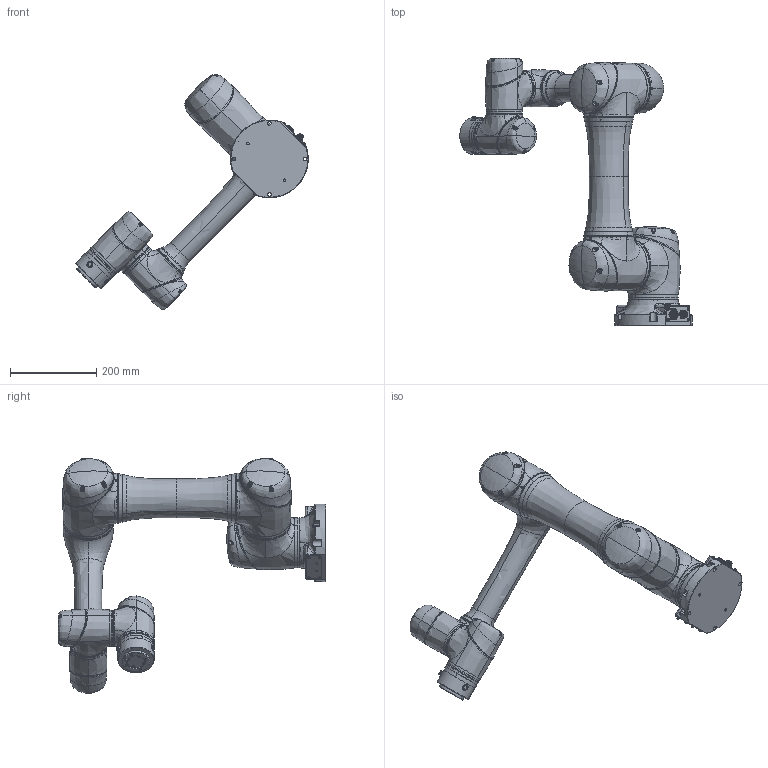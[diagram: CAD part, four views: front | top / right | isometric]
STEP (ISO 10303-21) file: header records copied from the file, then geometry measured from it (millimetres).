
FILE_DESCRIPTION (( 'STEP AP214' ), '1' );
FILE_NAME ('CRP-RC09-05 协作机器人本体 姿态3 2024.03.20.STEP', '2024-03-20T02:48:42', ( '' ), ( '' ), 'SwSTEP 2.0', 'SolidWorks 2021', '' );
FILE_SCHEMA (( 'AUTOMOTIVE_DESIGN' ));
Length unit declared in the file: millimetre
Products named in the file (29): CRP-RC09-05 藺傷楊擘; CRM25R褲极 2021.08.25; CRM14R 耀郪 2021.08.25; FLHM12F08T1.0NIYDBKXZ00 2020.02.062.0; 菁釱郪璃 2021.8.25; CRM25R滅鳥遠 2021.08.25; WY20 綴蹟譫脣釱蹟譫 2020.04.20; CRM25R砎蝶遠 2021.08.25; 迣疏; 菁釱; WY 綴蹟譫脣釱 2020.04.20; CRM14R 綴褲 2021.08.25; CRM14R砎蝶遠 2021.08.25; 湮旋砎蝶遠 2021.08.26; CRM14R褲极 2021.08.25; CRM25R 耀郪 2021.08.25; 苤旋砎蝶遠 2021.08.26; 裔啣3; CRM25R 綴褲 2021.08.25; 萇喀俔殏鍼踢2 ; 湮旋芠 2021.08.25; 十字槽盘头螺钉[GBT818-2000][M3×6]_M3×6; CRM14R滅鳥遠 2021.08.25; 迣疏25; WY20 綴蹟譫脣釱 2020.04.20; FLHM12F08T1.0嘐隅遠 2020.02.262.0; CRP-RC09-05 协作机器人本体 姿态3 2024.03.20; FLHM12F08T1.0NIYDBKXZ00 2020.02.262.0; 苤旋芠 2021.08.25
Assembly tree (47 placements, depth 4):
  CRP-RC09-05 协作机器人本体 姿态3 2024.03.20
    菁釱郪璃 2021.8.25
      菁釱
      萇喀俔殏鍼踢2 
      裔啣3
      FLHM12F08T1.0NIYDBKXZ00 2020.02.062.0
        FLHM12F08T1.0NIYDBKXZ00 2020.02.262.0
        FLHM12F08T1.0嘐隅遠 2020.02.262.0
      WY 綴蹟譫脣釱 2020.04.20
        WY20 綴蹟譫脣釱 2020.04.20
        WY20 綴蹟譫脣釱蹟譫 2020.04.20
      十字槽盘头螺钉[GBT818-2000][M3×6]_M3×6  x8
    CRM25R 耀郪 2021.08.25  x3
      CRM25R褲极 2021.08.25
      CRM25R 綴褲 2021.08.25
      CRM25R滅鳥遠 2021.08.25
      CRM25R砎蝶遠 2021.08.25
      迣疏25
      十字槽盘头螺钉[GBT818-2000][M3×6]_M3×6
    湮旋芠 2021.08.25
    苤旋芠 2021.08.25
    CRM14R 耀郪 2021.08.25  x3
      CRM14R褲极 2021.08.25
      CRM14R 綴褲 2021.08.25
      CRM14R砎蝶遠 2021.08.25
      CRM14R滅鳥遠 2021.08.25
      迣疏
      十字槽盘头螺钉[GBT818-2000][M3×6]_M3×6
    苤旋砎蝶遠 2021.08.26
    湮旋砎蝶遠 2021.08.26  x2
    CRP-RC09-05 藺傷楊擘
Bounding box: 538.37 x 620.32 x 544.2 mm (x, y, z)
Volume: 13058920.4 mm3; surface area: 1057767.5 mm2
Topology: 101 solids, 103 shells, 2491 faces, 5571 edges, 3285 vertices
Faces by surface type: plane 744, cylinder 648, bspline 519, cone 298, torus 213, sphere 69
Entity records: 73637 total; most frequent: CARTESIAN_POINT 46276, ORIENTED_EDGE 4940, DIRECTION 4239, EDGE_CURVE 2470, AXIS2_PLACEMENT_3D 1717, VERTEX_POINT 1540, EDGE_LOOP 1204, FACE_OUTER_BOUND 1067
